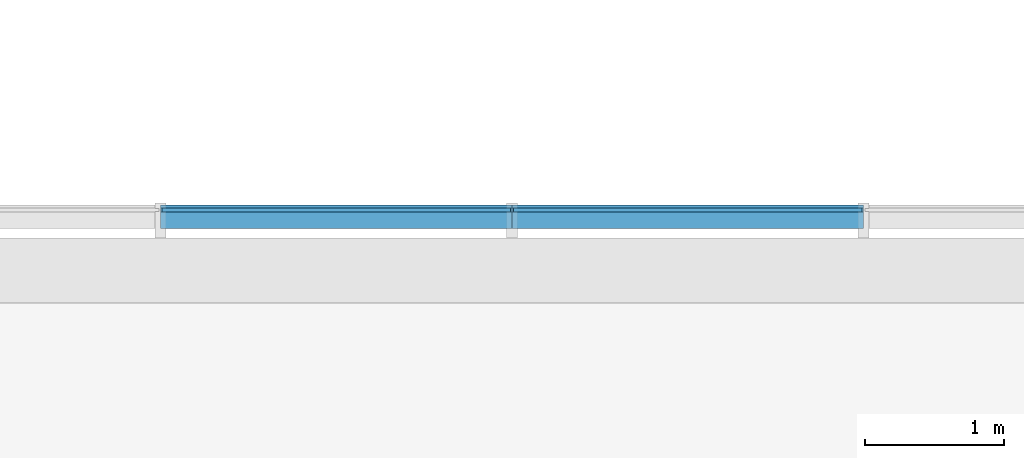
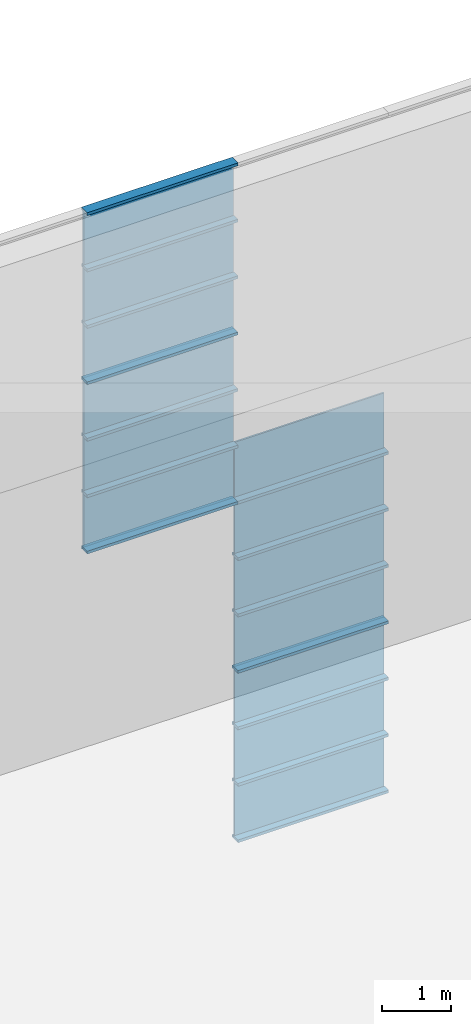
# One storey, part 43 of 105: 30 building element parts, 4 elements without a shape of their own.
"""IFC4 building model written with IfcOpenShell, lengths in millimetres."""

from ifc_helpers import new_model, entity, si_unit, converted_unit, derived_unit, direction, frame, origin_with_axes, place, context, subcontext, project, spatial, triangles, material, element, aggregate, save


model = new_model("IFC4")

# Units and contexts
model_context = context("Model", 3, precision=1e-05, world=origin_with_axes(), true_north=direction((0.0, 1.0)))
body_context = subcontext(model_context, "Body", "Model", "MODEL_VIEW")
ifc_project = project(units=[si_unit("LENGTHUNIT", "METRE", prefix="MILLI"), si_unit("AREAUNIT", "SQUARE_METRE"), si_unit("VOLUMEUNIT", "CUBIC_METRE"), converted_unit("PLANEANGLEUNIT", "DEGREE", entity("IfcLengthMeasure", 0.017453), si_unit("PLANEANGLEUNIT", "RADIAN"), dimensions=[0, 0, 0, 0, 0, 0, 0]), si_unit("SOLIDANGLEUNIT", "STERADIAN"), si_unit("MASSUNIT", "GRAM"), si_unit("TIMEUNIT", "SECOND"), si_unit("THERMODYNAMICTEMPERATUREUNIT", "DEGREE_CELSIUS"), si_unit("LUMINOUSINTENSITYUNIT", "LUMEN"), si_unit("POWERUNIT", "WATT"), derived_unit("THERMALTRANSMITTANCEUNIT", [(si_unit("POWERUNIT", "WATT"), 1), (si_unit("THERMODYNAMICTEMPERATUREUNIT", "KELVIN"), -1), (si_unit("AREAUNIT", "SQUARE_METRE"), -1)])], contexts=[model_context])

# Site, building, storey
site_placement = place(None, origin_with_axes())
site = spatial("IfcSite", under=ifc_project, at=site_placement, Name="Default Site", CompositionType="ELEMENT")
building_placement = place(site_placement, origin_with_axes())
building = spatial("IfcBuilding", under=site, at=building_placement, Name="Default Building", CompositionType="ELEMENT")
storey_placement = place(building_placement, origin_with_axes())
storey = spatial("IfcBuildingStorey", under=building, at=storey_placement, Name="OG - Story", CompositionType="ELEMENT", Elevation=0.0)

# Curtain wall, building element parts
curtain_wall_1_placement = place(storey_placement, origin_with_axes())
curtain_wall_1 = element("IfcCurtainWall", 1, at=curtain_wall_1_placement, inside=storey, Name="Fassade-004", PredefinedType="NOTDEFINED")
ifc_material_1 = material(Name="Normalglas")
building_element_part_1_placement = place(curtain_wall_1_placement, frame((33014.549222, -4389.262838, 0.0), z_axis=(0.0, 0.0, 1.0), x_axis=(1.0, 0.0, 0.0)))
building_element_part_1 = element("IfcBuildingElementPart", 2, at=building_element_part_1_placement, material=ifc_material_1, Name="Normalglas", PredefinedType="NOTDEFINED", context=body_context, shape_type="Tessellation", body=[
    triangles([(11358.421, -14.999, 995.0), (11358.421, 15.0, 995.0), (8852.105, 15.0, 995.0), (8852.105, -14.999, 995.0), (11358.421, -14.999, 5.0), (11358.421, 15.0, 5.0), (8852.105, 15.0, 5.0), (8852.105, -14.999, 5.0)], [[1, 2, 3], [1, 3, 4], [5, 6, 2], [5, 2, 1], [2, 6, 7], [2, 7, 3], [4, 3, 7], [4, 7, 8], [1, 4, 8], [1, 8, 5], [8, 7, 6], [8, 6, 5]], closed=False),
])
building_element_part_2_placement = place(curtain_wall_1_placement, frame((33014.549222, -4389.262838, 0.0), z_axis=(0.0, 0.0, 1.0), x_axis=(1.0, 0.0, 0.0)))
building_element_part_2 = element("IfcBuildingElementPart", 3, at=building_element_part_2_placement, material=ifc_material_1, Name="Normalglas", PredefinedType="NOTDEFINED", context=body_context, shape_type="Tessellation", body=[
    triangles([(11358.421, -14.999, 1995.0), (11358.421, 15.0, 1995.0), (8852.105, 15.0, 1995.0), (8852.105, -14.999, 1995.0), (11358.421, -14.999, 1005.0), (11358.421, 15.0, 1005.0), (8852.105, 15.0, 1005.0), (8852.105, -14.999, 1005.0)], [[1, 2, 3], [1, 3, 4], [5, 6, 2], [5, 2, 1], [2, 6, 7], [2, 7, 3], [4, 3, 7], [4, 7, 8], [1, 4, 8], [1, 8, 5], [8, 7, 6], [8, 6, 5]], closed=False),
])
building_element_part_3_placement = place(curtain_wall_1_placement, frame((33014.549222, -4389.262838, 0.0), z_axis=(0.0, 0.0, 1.0), x_axis=(1.0, 0.0, 0.0)))
building_element_part_3 = element("IfcBuildingElementPart", 4, at=building_element_part_3_placement, material=ifc_material_1, Name="Normalglas", PredefinedType="NOTDEFINED", context=body_context, shape_type="Tessellation", body=[
    triangles([(11358.421, -14.999, 2995.0), (11358.421, 15.0, 2995.0), (8852.105, 15.0, 2995.0), (8852.105, -14.999, 2995.0), (11358.421, -14.999, 2005.0), (11358.421, 15.0, 2005.0), (8852.105, 15.0, 2005.0), (8852.105, -14.999, 2005.0)], [[1, 2, 3], [1, 3, 4], [5, 6, 2], [5, 2, 1], [2, 6, 7], [2, 7, 3], [4, 3, 7], [4, 7, 8], [1, 4, 8], [1, 8, 5], [8, 7, 6], [8, 6, 5]], closed=False),
])
ifc_material_2 = material(Name="Blech")
building_element_part_4_placement = place(curtain_wall_1_placement, frame((33014.549222, -4389.262838, 0.0), z_axis=(0.0, 0.0, 1.0), x_axis=(1.0, 0.0, 0.0)))
building_element_part_4 = element("IfcBuildingElementPart", 5, at=building_element_part_4_placement, material=ifc_material_2, Name="Blech", PredefinedType="NOTDEFINED", context=body_context, shape_type="Tessellation", body=[
    triangles([(11368.421, 35.0, -24.999), (11368.421, 35.0, 25.0), (11368.421, 15.0, 25.0), (11368.421, 15.0, 5.0), (11368.421, -14.999, 5.0), (11368.421, -132.999, 25.0), (11368.421, -132.999, -24.999), (11368.421, -14.999, 25.0), (8842.105, -14.999, 5.0), (8842.105, -14.999, 25.0), (8842.105, -132.999, 25.0), (8842.105, -132.999, -24.999), (8842.105, 35.0, -24.999), (8842.105, 35.0, 25.0), (8842.105, 15.0, 25.0), (8842.105, 15.0, 5.0)], [[1, 2, 3], [1, 3, 4], [1, 4, 5], [1, 5, 6], [1, 6, 7], [8, 6, 5], [5, 9, 10], [5, 10, 8], [10, 11, 6], [10, 6, 8], [11, 12, 7], [11, 7, 6], [12, 13, 1], [12, 1, 7], [13, 14, 2], [13, 2, 1], [3, 2, 14], [3, 14, 15], [15, 16, 4], [15, 4, 3], [4, 16, 9], [4, 9, 5], [15, 16, 13], [13, 16, 9], [13, 9, 11], [11, 9, 10], [13, 11, 12], [15, 13, 14]], closed=False),
])
building_element_part_5_placement = place(curtain_wall_1_placement, frame((33014.549222, -4389.262838, 0.0), z_axis=(0.0, 0.0, 1.0), x_axis=(1.0, 0.0, 0.0)))
building_element_part_5 = element("IfcBuildingElementPart", 6, at=building_element_part_5_placement, material=ifc_material_2, Name="Blech", PredefinedType="NOTDEFINED", context=body_context, shape_type="Tessellation", body=[
    triangles([(11368.421, 35.0, 975.0), (11368.421, 15.0, 975.0), (11368.421, 35.0, 1025.0), (11368.421, 15.0, 995.0), (11368.421, 15.0, 1005.0), (11368.421, -14.999, 995.0), (11368.421, -14.999, 1005.0), (11368.421, -14.999, 1025.0), (11368.421, -14.999, 975.0), (11368.421, -132.999, 975.0), (11368.421, -132.999, 1025.0), (11368.421, 15.0, 1025.0), (8842.105, -14.999, 995.0), (8842.105, 15.0, 995.0), (8842.105, 15.0, 975.0), (8842.105, 35.0, 975.0), (8842.105, 35.0, 1025.0), (8842.105, 15.0, 1025.0), (8842.105, 15.0, 1005.0), (8842.105, -14.999, 1005.0), (8842.105, -14.999, 1025.0), (8842.105, -132.999, 1025.0), (8842.105, -132.999, 975.0), (8842.105, -14.999, 975.0)], [[1, 2, 3], [3, 2, 4], [3, 4, 5], [5, 4, 6], [5, 6, 7], [8, 9, 10], [8, 10, 11], [3, 5, 12], [6, 13, 14], [6, 14, 4], [4, 14, 15], [4, 15, 2], [15, 16, 1], [15, 1, 2], [1, 16, 17], [1, 17, 3], [18, 12, 3], [18, 3, 17], [12, 18, 19], [12, 19, 5], [7, 5, 19], [7, 19, 20], [8, 7, 20], [8, 20, 21], [8, 21, 22], [8, 22, 11], [11, 22, 23], [11, 23, 10], [9, 10, 23], [9, 23, 24], [9, 24, 13], [9, 13, 6], [17, 18, 16], [16, 18, 19], [16, 19, 14], [14, 19, 20], [14, 20, 13], [24, 21, 22], [24, 22, 23], [16, 14, 15]], closed=False),
])
building_element_part_6_placement = place(curtain_wall_1_placement, frame((33014.549222, -4389.262838, 0.0), z_axis=(0.0, 0.0, 1.0), x_axis=(1.0, 0.0, 0.0)))
building_element_part_6 = element("IfcBuildingElementPart", 7, at=building_element_part_6_placement, material=ifc_material_2, Name="Blech", PredefinedType="NOTDEFINED", context=body_context, shape_type="Tessellation", body=[
    triangles([(11368.421, 35.0, 1975.0), (11368.421, 15.0, 1975.0), (11368.421, 35.0, 2025.0), (11368.421, 15.0, 1995.0), (11368.421, 15.0, 2005.0), (11368.421, -14.999, 1995.0), (11368.421, -14.999, 2005.0), (11368.421, -14.999, 2025.0), (11368.421, -14.999, 1975.0), (11368.421, -132.999, 1975.0), (11368.421, -132.999, 2025.0), (11368.421, 15.0, 2025.0), (8842.105, -14.999, 1995.0), (8842.105, 15.0, 1995.0), (8842.105, 15.0, 1975.0), (8842.105, 35.0, 1975.0), (8842.105, 35.0, 2025.0), (8842.105, 15.0, 2025.0), (8842.105, 15.0, 2005.0), (8842.105, -14.999, 2005.0), (8842.105, -14.999, 2025.0), (8842.105, -132.999, 2025.0), (8842.105, -132.999, 1975.0), (8842.105, -14.999, 1975.0)], [[1, 2, 3], [3, 2, 4], [3, 4, 5], [5, 4, 6], [5, 6, 7], [8, 9, 10], [8, 10, 11], [3, 5, 12], [6, 13, 14], [6, 14, 4], [4, 14, 15], [4, 15, 2], [15, 16, 1], [15, 1, 2], [1, 16, 17], [1, 17, 3], [18, 12, 3], [18, 3, 17], [12, 18, 19], [12, 19, 5], [7, 5, 19], [7, 19, 20], [8, 7, 20], [8, 20, 21], [8, 21, 22], [8, 22, 11], [11, 22, 23], [11, 23, 10], [9, 10, 23], [9, 23, 24], [9, 24, 13], [9, 13, 6], [17, 18, 16], [16, 18, 19], [16, 19, 14], [14, 19, 20], [14, 20, 13], [24, 21, 22], [24, 22, 23], [16, 14, 15]], closed=False),
])
building_element_part_7_placement = place(curtain_wall_1_placement, frame((33014.549222, -4389.262838, 0.0), z_axis=(0.0, 0.0, 1.0), x_axis=(1.0, 0.0, 0.0)))
building_element_part_7 = element("IfcBuildingElementPart", 8, at=building_element_part_7_placement, material=ifc_material_2, Name="Blech", PredefinedType="NOTDEFINED", context=body_context, shape_type="Tessellation", body=[
    triangles([(11368.421, 15.0, 2975.0), (11368.421, 15.0, 2995.0), (11368.421, 35.0, 3025.0), (11368.421, -14.999, 2995.0), (11368.421, -132.999, 2975.0), (11368.421, -14.999, 2975.0), (11368.421, -132.999, 3025.0), (11368.421, 35.0, 2975.0), (8842.105, -14.999, 2995.0), (8842.105, 15.0, 2995.0), (8842.105, 15.0, 2975.0), (8842.105, 35.0, 2975.0), (8842.105, 35.0, 3025.0), (8842.105, -132.999, 3025.0), (8842.105, -132.999, 2975.0), (8842.105, -14.999, 2975.0)], [[1, 2, 3], [3, 2, 4], [3, 4, 5], [5, 4, 6], [3, 5, 7], [1, 3, 8], [2, 4, 9], [2, 9, 10], [11, 1, 2], [11, 2, 10], [1, 11, 12], [1, 12, 8], [13, 3, 8], [13, 8, 12], [14, 7, 3], [14, 3, 13], [15, 5, 7], [15, 7, 14], [16, 6, 5], [16, 5, 15], [4, 6, 16], [4, 16, 9], [13, 12, 11], [13, 11, 10], [13, 10, 9], [13, 9, 15], [13, 15, 14], [16, 15, 9]], closed=False),
])
aggregate(curtain_wall_1, [building_element_part_1, building_element_part_2, building_element_part_3, building_element_part_4, building_element_part_5, building_element_part_6, building_element_part_7])

curtain_wall_2_placement = place(storey_placement, origin_with_axes())
curtain_wall_2 = element("IfcCurtainWall", 9, at=curtain_wall_2_placement, inside=storey, Name="Fassade-004", PredefinedType="NOTDEFINED")
building_element_part_8_placement = place(curtain_wall_2_placement, frame((33014.549222, -4389.262838, 3000.0), z_axis=(0.0, 0.0, 1.0), x_axis=(1.0, 0.0, 0.0)))
building_element_part_8 = element("IfcBuildingElementPart", 10, at=building_element_part_8_placement, material=ifc_material_1, Name="Normalglas", PredefinedType="NOTDEFINED", context=body_context, shape_type="Tessellation", body=[
    triangles([(11358.421, -14.999, 995.0), (11358.421, 15.0, 995.0), (8852.105, 15.0, 995.0), (8852.105, -14.999, 995.0), (11358.421, -14.999, 5.0), (11358.421, 15.0, 5.0), (8852.105, 15.0, 5.0), (8852.105, -14.999, 5.0)], [[1, 2, 3], [1, 3, 4], [5, 6, 2], [5, 2, 1], [2, 6, 7], [2, 7, 3], [4, 3, 7], [4, 7, 8], [1, 4, 8], [1, 8, 5], [8, 7, 6], [8, 6, 5]], closed=False),
])
building_element_part_9_placement = place(curtain_wall_2_placement, frame((33014.549222, -4389.262838, 3000.0), z_axis=(0.0, 0.0, 1.0), x_axis=(1.0, 0.0, 0.0)))
building_element_part_9 = element("IfcBuildingElementPart", 11, at=building_element_part_9_placement, material=ifc_material_1, Name="Normalglas", PredefinedType="NOTDEFINED", context=body_context, shape_type="Tessellation", body=[
    triangles([(11358.421, -14.999, 1995.0), (11358.421, 15.0, 1995.0), (8852.105, 15.0, 1995.0), (8852.105, -14.999, 1995.0), (11358.421, -14.999, 1005.0), (11358.421, 15.0, 1005.0), (8852.105, 15.0, 1005.0), (8852.105, -14.999, 1005.0)], [[1, 2, 3], [1, 3, 4], [5, 6, 2], [5, 2, 1], [2, 6, 7], [2, 7, 3], [4, 3, 7], [4, 7, 8], [1, 4, 8], [1, 8, 5], [8, 7, 6], [8, 6, 5]], closed=False),
])
building_element_part_10_placement = place(curtain_wall_2_placement, frame((33014.549222, -4389.262838, 3000.0), z_axis=(0.0, 0.0, 1.0), x_axis=(1.0, 0.0, 0.0)))
building_element_part_10 = element("IfcBuildingElementPart", 12, at=building_element_part_10_placement, material=ifc_material_1, Name="Normalglas", PredefinedType="NOTDEFINED", context=body_context, shape_type="Tessellation", body=[
    triangles([(11358.421, -14.999, 2995.0), (11358.421, 15.0, 2995.0), (8852.105, 15.0, 2995.0), (8852.105, -14.999, 2995.0), (11358.421, -14.999, 2005.0), (11358.421, 15.0, 2005.0), (8852.105, 15.0, 2005.0), (8852.105, -14.999, 2005.0)], [[1, 2, 3], [1, 3, 4], [5, 6, 2], [5, 2, 1], [2, 6, 7], [2, 7, 3], [4, 3, 7], [4, 7, 8], [1, 4, 8], [1, 8, 5], [8, 7, 6], [8, 6, 5]], closed=False),
])
building_element_part_11_placement = place(curtain_wall_2_placement, frame((33014.549222, -4389.262838, 3000.0), z_axis=(0.0, 0.0, 1.0), x_axis=(1.0, 0.0, 0.0)))
building_element_part_11 = element("IfcBuildingElementPart", 13, at=building_element_part_11_placement, material=ifc_material_2, Name="Blech", PredefinedType="NOTDEFINED", context=body_context, shape_type="Tessellation", body=[
    triangles([(11368.421, 35.0, -24.999), (11368.421, 35.0, 25.0), (11368.421, 15.0, 25.0), (11368.421, 15.0, 5.0), (11368.421, -14.999, 5.0), (11368.421, -132.999, 25.0), (11368.421, -132.999, -24.999), (11368.421, -14.999, 25.0), (8842.105, -14.999, 5.0), (8842.105, -14.999, 25.0), (8842.105, -132.999, 25.0), (8842.105, -132.999, -24.999), (8842.105, 35.0, -24.999), (8842.105, 35.0, 25.0), (8842.105, 15.0, 25.0), (8842.105, 15.0, 5.0)], [[1, 2, 3], [1, 3, 4], [1, 4, 5], [1, 5, 6], [1, 6, 7], [8, 6, 5], [5, 9, 10], [5, 10, 8], [10, 11, 6], [10, 6, 8], [11, 12, 7], [11, 7, 6], [12, 13, 1], [12, 1, 7], [13, 14, 2], [13, 2, 1], [3, 2, 14], [3, 14, 15], [15, 16, 4], [15, 4, 3], [4, 16, 9], [4, 9, 5], [15, 16, 13], [13, 16, 9], [13, 9, 11], [11, 9, 10], [13, 11, 12], [15, 13, 14]], closed=False),
])
building_element_part_12_placement = place(curtain_wall_2_placement, frame((33014.549222, -4389.262838, 3000.0), z_axis=(0.0, 0.0, 1.0), x_axis=(1.0, 0.0, 0.0)))
building_element_part_12 = element("IfcBuildingElementPart", 14, at=building_element_part_12_placement, material=ifc_material_2, Name="Blech", PredefinedType="NOTDEFINED", context=body_context, shape_type="Tessellation", body=[
    triangles([(11368.421, 35.0, 975.0), (11368.421, 15.0, 975.0), (11368.421, 35.0, 1025.0), (11368.421, 15.0, 995.0), (11368.421, 15.0, 1005.0), (11368.421, -14.999, 995.0), (11368.421, -14.999, 1005.0), (11368.421, -14.999, 1025.0), (11368.421, -14.999, 975.0), (11368.421, -132.999, 975.0), (11368.421, -132.999, 1025.0), (11368.421, 15.0, 1025.0), (8842.105, -14.999, 995.0), (8842.105, 15.0, 995.0), (8842.105, 15.0, 975.0), (8842.105, 35.0, 975.0), (8842.105, 35.0, 1025.0), (8842.105, 15.0, 1025.0), (8842.105, 15.0, 1005.0), (8842.105, -14.999, 1005.0), (8842.105, -14.999, 1025.0), (8842.105, -132.999, 1025.0), (8842.105, -132.999, 975.0), (8842.105, -14.999, 975.0)], [[1, 2, 3], [3, 2, 4], [3, 4, 5], [5, 4, 6], [5, 6, 7], [8, 9, 10], [8, 10, 11], [3, 5, 12], [6, 13, 14], [6, 14, 4], [4, 14, 15], [4, 15, 2], [15, 16, 1], [15, 1, 2], [1, 16, 17], [1, 17, 3], [18, 12, 3], [18, 3, 17], [12, 18, 19], [12, 19, 5], [7, 5, 19], [7, 19, 20], [8, 7, 20], [8, 20, 21], [8, 21, 22], [8, 22, 11], [11, 22, 23], [11, 23, 10], [9, 10, 23], [9, 23, 24], [9, 24, 13], [9, 13, 6], [17, 18, 16], [16, 18, 19], [16, 19, 14], [14, 19, 20], [14, 20, 13], [24, 21, 22], [24, 22, 23], [16, 14, 15]], closed=False),
])
building_element_part_13_placement = place(curtain_wall_2_placement, frame((33014.549222, -4389.262838, 3000.0), z_axis=(0.0, 0.0, 1.0), x_axis=(1.0, 0.0, 0.0)))
building_element_part_13 = element("IfcBuildingElementPart", 15, at=building_element_part_13_placement, material=ifc_material_2, Name="Blech", PredefinedType="NOTDEFINED", context=body_context, shape_type="Tessellation", body=[
    triangles([(8842.105, 15.0, 2975.0), (8842.105, 15.0, 2995.0), (8842.105, 35.0, 3025.0), (8842.105, -14.999, 2995.0), (8842.105, -132.999, 2975.0), (8842.105, -14.999, 2975.0), (8842.105, -132.999, 3025.0), (8842.105, 35.0, 2975.0), (6315.789, -14.999, 2995.0), (6315.789, 15.0, 2995.0), (6315.789, 15.0, 2975.0), (6315.789, 35.0, 2975.0), (6315.789, 35.0, 3025.0), (6315.789, -132.999, 3025.0), (6315.789, -132.999, 2975.0), (6315.789, -14.999, 2975.0)], [[1, 2, 3], [3, 2, 4], [3, 4, 5], [5, 4, 6], [3, 5, 7], [1, 3, 8], [2, 4, 9], [2, 9, 10], [11, 1, 2], [11, 2, 10], [1, 11, 12], [1, 12, 8], [13, 3, 8], [13, 8, 12], [14, 7, 3], [14, 3, 13], [15, 5, 7], [15, 7, 14], [16, 6, 5], [16, 5, 15], [4, 6, 16], [4, 16, 9], [13, 12, 11], [13, 11, 10], [13, 10, 9], [13, 9, 15], [13, 15, 14], [16, 15, 9]], closed=False),
])
building_element_part_14_placement = place(curtain_wall_2_placement, frame((33014.549222, -4389.262838, 3000.0), z_axis=(0.0, 0.0, 1.0), x_axis=(1.0, 0.0, 0.0)))
building_element_part_14 = element("IfcBuildingElementPart", 16, at=building_element_part_14_placement, material=ifc_material_2, Name="Blech", PredefinedType="NOTDEFINED", context=body_context, shape_type="Tessellation", body=[
    triangles([(11368.421, 35.0, 1975.0), (11368.421, 15.0, 1975.0), (11368.421, 35.0, 2025.0), (11368.421, 15.0, 1995.0), (11368.421, 15.0, 2005.0), (11368.421, -14.999, 1995.0), (11368.421, -14.999, 2005.0), (11368.421, -14.999, 2025.0), (11368.421, -14.999, 1975.0), (11368.421, -132.999, 1975.0), (11368.421, -132.999, 2025.0), (11368.421, 15.0, 2025.0), (8842.105, -14.999, 1995.0), (8842.105, 15.0, 1995.0), (8842.105, 15.0, 1975.0), (8842.105, 35.0, 1975.0), (8842.105, 35.0, 2025.0), (8842.105, 15.0, 2025.0), (8842.105, 15.0, 2005.0), (8842.105, -14.999, 2005.0), (8842.105, -14.999, 2025.0), (8842.105, -132.999, 2025.0), (8842.105, -132.999, 1975.0), (8842.105, -14.999, 1975.0)], [[1, 2, 3], [3, 2, 4], [3, 4, 5], [5, 4, 6], [5, 6, 7], [8, 9, 10], [8, 10, 11], [3, 5, 12], [6, 13, 14], [6, 14, 4], [4, 14, 15], [4, 15, 2], [15, 16, 1], [15, 1, 2], [1, 16, 17], [1, 17, 3], [18, 12, 3], [18, 3, 17], [12, 18, 19], [12, 19, 5], [7, 5, 19], [7, 19, 20], [8, 7, 20], [8, 20, 21], [8, 21, 22], [8, 22, 11], [11, 22, 23], [11, 23, 10], [9, 10, 23], [9, 23, 24], [9, 24, 13], [9, 13, 6], [17, 18, 16], [16, 18, 19], [16, 19, 14], [14, 19, 20], [14, 20, 13], [24, 21, 22], [24, 22, 23], [16, 14, 15]], closed=False),
])
building_element_part_15_placement = place(curtain_wall_2_placement, frame((33014.549222, -4389.262838, 3000.0), z_axis=(0.0, 0.0, 1.0), x_axis=(1.0, 0.0, 0.0)))
building_element_part_15 = element("IfcBuildingElementPart", 17, at=building_element_part_15_placement, material=ifc_material_2, Name="Blech", PredefinedType="NOTDEFINED", context=body_context, shape_type="Tessellation", body=[
    triangles([(11368.421, 15.0, 2975.0), (11368.421, 15.0, 2995.0), (11368.421, 35.0, 3025.0), (11368.421, -14.999, 2995.0), (11368.421, -132.999, 2975.0), (11368.421, -14.999, 2975.0), (11368.421, -132.999, 3025.0), (11368.421, 35.0, 2975.0), (8842.105, -14.999, 2995.0), (8842.105, 15.0, 2995.0), (8842.105, 15.0, 2975.0), (8842.105, 35.0, 2975.0), (8842.105, 35.0, 3025.0), (8842.105, -132.999, 3025.0), (8842.105, -132.999, 2975.0), (8842.105, -14.999, 2975.0)], [[1, 2, 3], [3, 2, 4], [3, 4, 5], [5, 4, 6], [3, 5, 7], [1, 3, 8], [2, 4, 9], [2, 9, 10], [11, 1, 2], [11, 2, 10], [1, 11, 12], [1, 12, 8], [13, 3, 8], [13, 8, 12], [14, 7, 3], [14, 3, 13], [15, 5, 7], [15, 7, 14], [16, 6, 5], [16, 5, 15], [4, 6, 16], [4, 16, 9], [13, 12, 11], [13, 11, 10], [13, 10, 9], [13, 9, 15], [13, 15, 14], [16, 15, 9]], closed=False),
])
aggregate(curtain_wall_2, [building_element_part_8, building_element_part_9, building_element_part_10, building_element_part_11, building_element_part_12, building_element_part_13, building_element_part_14, building_element_part_15])

curtain_wall_3_placement = place(storey_placement, origin_with_axes())
curtain_wall_3 = element("IfcCurtainWall", 18, at=curtain_wall_3_placement, inside=storey, Name="Fassade-004", PredefinedType="NOTDEFINED")
building_element_part_16_placement = place(curtain_wall_3_placement, frame((33014.549222, -4389.262838, 6000.0), z_axis=(0.0, 0.0, 1.0), x_axis=(1.0, 0.0, 0.0)))
building_element_part_16 = element("IfcBuildingElementPart", 19, at=building_element_part_16_placement, material=ifc_material_1, Name="Normalglas", PredefinedType="NOTDEFINED", context=body_context, shape_type="Tessellation", body=[
    triangles([(8832.105, -14.999, 995.0), (8832.105, 15.0, 995.0), (6325.789, 15.0, 995.0), (6325.789, -14.999, 995.0), (8832.105, -14.999, 5.0), (8832.105, 15.0, 5.0), (6325.789, 15.0, 5.0), (6325.789, -14.999, 5.0)], [[1, 2, 3], [1, 3, 4], [5, 6, 2], [5, 2, 1], [2, 6, 7], [2, 7, 3], [4, 3, 7], [4, 7, 8], [1, 4, 8], [1, 8, 5], [8, 7, 6], [8, 6, 5]], closed=False),
])
building_element_part_17_placement = place(curtain_wall_3_placement, frame((33014.549222, -4389.262838, 6000.0), z_axis=(0.0, 0.0, 1.0), x_axis=(1.0, 0.0, 0.0)))
building_element_part_17 = element("IfcBuildingElementPart", 20, at=building_element_part_17_placement, material=ifc_material_1, Name="Normalglas", PredefinedType="NOTDEFINED", context=body_context, shape_type="Tessellation", body=[
    triangles([(11358.421, -14.999, 995.0), (11358.421, 15.0, 995.0), (8852.105, 15.0, 995.0), (8852.105, -14.999, 995.0), (11358.421, -14.999, 5.0), (11358.421, 15.0, 5.0), (8852.105, 15.0, 5.0), (8852.105, -14.999, 5.0)], [[1, 2, 3], [1, 3, 4], [5, 6, 2], [5, 2, 1], [2, 6, 7], [2, 7, 3], [4, 3, 7], [4, 7, 8], [1, 4, 8], [1, 8, 5], [8, 7, 6], [8, 6, 5]], closed=False),
])
building_element_part_18_placement = place(curtain_wall_3_placement, frame((33014.549222, -4389.262838, 6000.0), z_axis=(0.0, 0.0, 1.0), x_axis=(1.0, 0.0, 0.0)))
building_element_part_18 = element("IfcBuildingElementPart", 21, at=building_element_part_18_placement, material=ifc_material_1, Name="Normalglas", PredefinedType="NOTDEFINED", context=body_context, shape_type="Tessellation", body=[
    triangles([(8832.105, -14.999, 1995.0), (8832.105, 15.0, 1995.0), (6325.789, 15.0, 1995.0), (6325.789, -14.999, 1995.0), (8832.105, -14.999, 1005.0), (8832.105, 15.0, 1005.0), (6325.789, 15.0, 1005.0), (6325.789, -14.999, 1005.0)], [[1, 2, 3], [1, 3, 4], [5, 6, 2], [5, 2, 1], [2, 6, 7], [2, 7, 3], [4, 3, 7], [4, 7, 8], [1, 4, 8], [1, 8, 5], [8, 7, 6], [8, 6, 5]], closed=False),
])
building_element_part_19_placement = place(curtain_wall_3_placement, frame((33014.549222, -4389.262838, 6000.0), z_axis=(0.0, 0.0, 1.0), x_axis=(1.0, 0.0, 0.0)))
building_element_part_19 = element("IfcBuildingElementPart", 22, at=building_element_part_19_placement, material=ifc_material_1, Name="Normalglas", PredefinedType="NOTDEFINED", context=body_context, shape_type="Tessellation", body=[
    triangles([(8832.105, -14.999, 2995.0), (8832.105, 15.0, 2995.0), (6325.789, 15.0, 2995.0), (6325.789, -14.999, 2995.0), (8832.105, -14.999, 2005.0), (8832.105, 15.0, 2005.0), (6325.789, 15.0, 2005.0), (6325.789, -14.999, 2005.0)], [[1, 2, 3], [1, 3, 4], [5, 6, 2], [5, 2, 1], [2, 6, 7], [2, 7, 3], [4, 3, 7], [4, 7, 8], [1, 4, 8], [1, 8, 5], [8, 7, 6], [8, 6, 5]], closed=False),
])
building_element_part_20_placement = place(curtain_wall_3_placement, frame((33014.549222, -4389.262838, 6000.0), z_axis=(0.0, 0.0, 1.0), x_axis=(1.0, 0.0, 0.0)))
building_element_part_20 = element("IfcBuildingElementPart", 23, at=building_element_part_20_placement, material=ifc_material_2, Name="Blech", PredefinedType="NOTDEFINED", context=body_context, shape_type="Tessellation", body=[
    triangles([(8842.105, 35.0, -24.999), (8842.105, 35.0, 25.0), (8842.105, 15.0, 25.0), (8842.105, 15.0, 5.0), (8842.105, -14.999, 5.0), (8842.105, -132.999, 25.0), (8842.105, -132.999, -24.999), (8842.105, -14.999, 25.0), (6315.789, -14.999, 5.0), (6315.789, -14.999, 25.0), (6315.789, -132.999, 25.0), (6315.789, -132.999, -24.999), (6315.789, 35.0, -24.999), (6315.789, 35.0, 25.0), (6315.789, 15.0, 25.0), (6315.789, 15.0, 5.0)], [[1, 2, 3], [1, 3, 4], [1, 4, 5], [1, 5, 6], [1, 6, 7], [8, 6, 5], [5, 9, 10], [5, 10, 8], [10, 11, 6], [10, 6, 8], [11, 12, 7], [11, 7, 6], [12, 13, 1], [12, 1, 7], [13, 14, 2], [13, 2, 1], [3, 2, 14], [3, 14, 15], [15, 16, 4], [15, 4, 3], [4, 16, 9], [4, 9, 5], [15, 16, 13], [13, 16, 9], [13, 9, 11], [11, 9, 10], [13, 11, 12], [15, 13, 14]], closed=False),
])
building_element_part_21_placement = place(curtain_wall_3_placement, frame((33014.549222, -4389.262838, 6000.0), z_axis=(0.0, 0.0, 1.0), x_axis=(1.0, 0.0, 0.0)))
building_element_part_21 = element("IfcBuildingElementPart", 24, at=building_element_part_21_placement, material=ifc_material_2, Name="Blech", PredefinedType="NOTDEFINED", context=body_context, shape_type="Tessellation", body=[
    triangles([(8842.105, 35.0, 975.0), (8842.105, 15.0, 975.0), (8842.105, 35.0, 1025.0), (8842.105, 15.0, 995.0), (8842.105, 15.0, 1005.0), (8842.105, -14.999, 995.0), (8842.105, -14.999, 1005.0), (8842.105, -14.999, 1025.0), (8842.105, -14.999, 975.0), (8842.105, -132.999, 975.0), (8842.105, -132.999, 1025.0), (8842.105, 15.0, 1025.0), (6315.789, -14.999, 995.0), (6315.789, 15.0, 995.0), (6315.789, 15.0, 975.0), (6315.789, 35.0, 975.0), (6315.789, 35.0, 1025.0), (6315.789, 15.0, 1025.0), (6315.789, 15.0, 1005.0), (6315.789, -14.999, 1005.0), (6315.789, -14.999, 1025.0), (6315.789, -132.999, 1025.0), (6315.789, -132.999, 975.0), (6315.789, -14.999, 975.0)], [[1, 2, 3], [3, 2, 4], [3, 4, 5], [5, 4, 6], [5, 6, 7], [8, 9, 10], [8, 10, 11], [3, 5, 12], [6, 13, 14], [6, 14, 4], [4, 14, 15], [4, 15, 2], [15, 16, 1], [15, 1, 2], [1, 16, 17], [1, 17, 3], [18, 12, 3], [18, 3, 17], [12, 18, 19], [12, 19, 5], [7, 5, 19], [7, 19, 20], [8, 7, 20], [8, 20, 21], [8, 21, 22], [8, 22, 11], [11, 22, 23], [11, 23, 10], [9, 10, 23], [9, 23, 24], [9, 24, 13], [9, 13, 6], [17, 18, 16], [16, 18, 19], [16, 19, 14], [14, 19, 20], [14, 20, 13], [24, 21, 22], [24, 22, 23], [16, 14, 15]], closed=False),
])
building_element_part_22_placement = place(curtain_wall_3_placement, frame((33014.549222, -4389.262838, 6000.0), z_axis=(0.0, 0.0, 1.0), x_axis=(1.0, 0.0, 0.0)))
building_element_part_22 = element("IfcBuildingElementPart", 25, at=building_element_part_22_placement, material=ifc_material_2, Name="Blech", PredefinedType="NOTDEFINED", context=body_context, shape_type="Tessellation", body=[
    triangles([(8842.105, 35.0, 1975.0), (8842.105, 15.0, 1975.0), (8842.105, 35.0, 2025.0), (8842.105, 15.0, 1995.0), (8842.105, 15.0, 2005.0), (8842.105, -14.999, 1995.0), (8842.105, -14.999, 2005.0), (8842.105, -14.999, 2025.0), (8842.105, -14.999, 1975.0), (8842.105, -132.999, 1975.0), (8842.105, -132.999, 2025.0), (8842.105, 15.0, 2025.0), (6315.789, -14.999, 1995.0), (6315.789, 15.0, 1995.0), (6315.789, 15.0, 1975.0), (6315.789, 35.0, 1975.0), (6315.789, 35.0, 2025.0), (6315.789, 15.0, 2025.0), (6315.789, 15.0, 2005.0), (6315.789, -14.999, 2005.0), (6315.789, -14.999, 2025.0), (6315.789, -132.999, 2025.0), (6315.789, -132.999, 1975.0), (6315.789, -14.999, 1975.0)], [[1, 2, 3], [3, 2, 4], [3, 4, 5], [5, 4, 6], [5, 6, 7], [8, 9, 10], [8, 10, 11], [3, 5, 12], [6, 13, 14], [6, 14, 4], [4, 14, 15], [4, 15, 2], [15, 16, 1], [15, 1, 2], [1, 16, 17], [1, 17, 3], [18, 12, 3], [18, 3, 17], [12, 18, 19], [12, 19, 5], [7, 5, 19], [7, 19, 20], [8, 7, 20], [8, 20, 21], [8, 21, 22], [8, 22, 11], [11, 22, 23], [11, 23, 10], [9, 10, 23], [9, 23, 24], [9, 24, 13], [9, 13, 6], [17, 18, 16], [16, 18, 19], [16, 19, 14], [14, 19, 20], [14, 20, 13], [24, 21, 22], [24, 22, 23], [16, 14, 15]], closed=False),
])
building_element_part_23_placement = place(curtain_wall_3_placement, frame((33014.549222, -4389.262838, 6000.0), z_axis=(0.0, 0.0, 1.0), x_axis=(1.0, 0.0, 0.0)))
building_element_part_23 = element("IfcBuildingElementPart", 26, at=building_element_part_23_placement, material=ifc_material_2, Name="Blech", PredefinedType="NOTDEFINED", context=body_context, shape_type="Tessellation", body=[
    triangles([(8842.105, 15.0, 2975.0), (8842.105, 15.0, 2995.0), (8842.105, 35.0, 3025.0), (8842.105, -14.999, 2995.0), (8842.105, -132.999, 2975.0), (8842.105, -14.999, 2975.0), (8842.105, -132.999, 3025.0), (8842.105, 35.0, 2975.0), (6315.789, -14.999, 2995.0), (6315.789, 15.0, 2995.0), (6315.789, 15.0, 2975.0), (6315.789, 35.0, 2975.0), (6315.789, 35.0, 3025.0), (6315.789, -132.999, 3025.0), (6315.789, -132.999, 2975.0), (6315.789, -14.999, 2975.0)], [[1, 2, 3], [3, 2, 4], [3, 4, 5], [5, 4, 6], [3, 5, 7], [1, 3, 8], [2, 4, 9], [2, 9, 10], [11, 1, 2], [11, 2, 10], [1, 11, 12], [1, 12, 8], [13, 3, 8], [13, 8, 12], [14, 7, 3], [14, 3, 13], [15, 5, 7], [15, 7, 14], [16, 6, 5], [16, 5, 15], [4, 6, 16], [4, 16, 9], [13, 12, 11], [13, 11, 10], [13, 10, 9], [13, 9, 15], [13, 15, 14], [16, 15, 9]], closed=False),
])
aggregate(curtain_wall_3, [building_element_part_16, building_element_part_17, building_element_part_18, building_element_part_19, building_element_part_20, building_element_part_21, building_element_part_22, building_element_part_23])

curtain_wall_4_placement = place(storey_placement, origin_with_axes())
curtain_wall_4 = element("IfcCurtainWall", 27, at=curtain_wall_4_placement, inside=storey, Name="Fassade-004", PredefinedType="NOTDEFINED")
building_element_part_24_placement = place(curtain_wall_4_placement, frame((33014.549222, -4389.262838, 9000.0), z_axis=(0.0, 0.0, 1.0), x_axis=(1.0, 0.0, 0.0)))
building_element_part_24 = element("IfcBuildingElementPart", 28, at=building_element_part_24_placement, material=ifc_material_1, Name="Normalglas", PredefinedType="NOTDEFINED", context=body_context, shape_type="Tessellation", body=[
    triangles([(8832.105, -14.999, 995.0), (8832.105, 15.0, 995.0), (6325.789, 15.0, 995.0), (6325.789, -14.999, 995.0), (8832.105, -14.999, 5.0), (8832.105, 15.0, 5.0), (6325.789, 15.0, 5.0), (6325.789, -14.999, 5.0)], [[1, 2, 3], [1, 3, 4], [5, 6, 2], [5, 2, 1], [2, 6, 7], [2, 7, 3], [4, 3, 7], [4, 7, 8], [1, 4, 8], [1, 8, 5], [8, 7, 6], [8, 6, 5]], closed=False),
])
building_element_part_25_placement = place(curtain_wall_4_placement, frame((33014.549222, -4389.262838, 9000.0), z_axis=(0.0, 0.0, 1.0), x_axis=(1.0, 0.0, 0.0)))
building_element_part_25 = element("IfcBuildingElementPart", 29, at=building_element_part_25_placement, material=ifc_material_1, Name="Normalglas", PredefinedType="NOTDEFINED", context=body_context, shape_type="Tessellation", body=[
    triangles([(8832.105, -14.999, 1995.0), (8832.105, 15.0, 1995.0), (6325.789, 15.0, 1995.0), (6325.789, -14.999, 1995.0), (8832.105, -14.999, 1005.0), (8832.105, 15.0, 1005.0), (6325.789, 15.0, 1005.0), (6325.789, -14.999, 1005.0)], [[1, 2, 3], [1, 3, 4], [5, 6, 2], [5, 2, 1], [2, 6, 7], [2, 7, 3], [4, 3, 7], [4, 7, 8], [1, 4, 8], [1, 8, 5], [8, 7, 6], [8, 6, 5]], closed=False),
])
building_element_part_26_placement = place(curtain_wall_4_placement, frame((33014.549222, -4389.262838, 9000.0), z_axis=(0.0, 0.0, 1.0), x_axis=(1.0, 0.0, 0.0)))
building_element_part_26 = element("IfcBuildingElementPart", 30, at=building_element_part_26_placement, material=ifc_material_1, Name="Normalglas", PredefinedType="NOTDEFINED", context=body_context, shape_type="Tessellation", body=[
    triangles([(8832.105, -14.999, 2995.0), (8832.105, 15.0, 2995.0), (6325.789, 15.0, 2995.0), (6325.789, -14.999, 2995.0), (8832.105, -14.999, 2005.0), (8832.105, 15.0, 2005.0), (6325.789, 15.0, 2005.0), (6325.789, -14.999, 2005.0)], [[1, 2, 3], [1, 3, 4], [5, 6, 2], [5, 2, 1], [2, 6, 7], [2, 7, 3], [4, 3, 7], [4, 7, 8], [1, 4, 8], [1, 8, 5], [8, 7, 6], [8, 6, 5]], closed=False),
])
building_element_part_27_placement = place(curtain_wall_4_placement, frame((33014.549222, -4389.262838, 9000.0), z_axis=(0.0, 0.0, 1.0), x_axis=(1.0, 0.0, 0.0)))
building_element_part_27 = element("IfcBuildingElementPart", 31, at=building_element_part_27_placement, material=ifc_material_2, Name="Blech", PredefinedType="NOTDEFINED", context=body_context, shape_type="Tessellation", body=[
    triangles([(8842.105, 35.0, -24.999), (8842.105, 35.0, 25.0), (8842.105, 15.0, 25.0), (8842.105, 15.0, 5.0), (8842.105, -14.999, 5.0), (8842.105, -132.999, 25.0), (8842.105, -132.999, -24.999), (8842.105, -14.999, 25.0), (6315.789, -14.999, 5.0), (6315.789, -14.999, 25.0), (6315.789, -132.999, 25.0), (6315.789, -132.999, -24.999), (6315.789, 35.0, -24.999), (6315.789, 35.0, 25.0), (6315.789, 15.0, 25.0), (6315.789, 15.0, 5.0)], [[1, 2, 3], [1, 3, 4], [1, 4, 5], [1, 5, 6], [1, 6, 7], [8, 6, 5], [5, 9, 10], [5, 10, 8], [10, 11, 6], [10, 6, 8], [11, 12, 7], [11, 7, 6], [12, 13, 1], [12, 1, 7], [13, 14, 2], [13, 2, 1], [3, 2, 14], [3, 14, 15], [15, 16, 4], [15, 4, 3], [4, 16, 9], [4, 9, 5], [15, 16, 13], [13, 16, 9], [13, 9, 11], [11, 9, 10], [13, 11, 12], [15, 13, 14]], closed=False),
])
building_element_part_28_placement = place(curtain_wall_4_placement, frame((33014.549222, -4389.262838, 9000.0), z_axis=(0.0, 0.0, 1.0), x_axis=(1.0, 0.0, 0.0)))
building_element_part_28 = element("IfcBuildingElementPart", 32, at=building_element_part_28_placement, material=ifc_material_2, Name="Blech", PredefinedType="NOTDEFINED", context=body_context, shape_type="Tessellation", body=[
    triangles([(8842.105, 35.0, 975.0), (8842.105, 15.0, 975.0), (8842.105, 35.0, 1025.0), (8842.105, 15.0, 995.0), (8842.105, 15.0, 1005.0), (8842.105, -14.999, 995.0), (8842.105, -14.999, 1005.0), (8842.105, -14.999, 1025.0), (8842.105, -14.999, 975.0), (8842.105, -132.999, 975.0), (8842.105, -132.999, 1025.0), (8842.105, 15.0, 1025.0), (6315.789, -14.999, 995.0), (6315.789, 15.0, 995.0), (6315.789, 15.0, 975.0), (6315.789, 35.0, 975.0), (6315.789, 35.0, 1025.0), (6315.789, 15.0, 1025.0), (6315.789, 15.0, 1005.0), (6315.789, -14.999, 1005.0), (6315.789, -14.999, 1025.0), (6315.789, -132.999, 1025.0), (6315.789, -132.999, 975.0), (6315.789, -14.999, 975.0)], [[1, 2, 3], [3, 2, 4], [3, 4, 5], [5, 4, 6], [5, 6, 7], [8, 9, 10], [8, 10, 11], [3, 5, 12], [6, 13, 14], [6, 14, 4], [4, 14, 15], [4, 15, 2], [15, 16, 1], [15, 1, 2], [1, 16, 17], [1, 17, 3], [18, 12, 3], [18, 3, 17], [12, 18, 19], [12, 19, 5], [7, 5, 19], [7, 19, 20], [8, 7, 20], [8, 20, 21], [8, 21, 22], [8, 22, 11], [11, 22, 23], [11, 23, 10], [9, 10, 23], [9, 23, 24], [9, 24, 13], [9, 13, 6], [17, 18, 16], [16, 18, 19], [16, 19, 14], [14, 19, 20], [14, 20, 13], [24, 21, 22], [24, 22, 23], [16, 14, 15]], closed=False),
])
building_element_part_29_placement = place(curtain_wall_4_placement, frame((33014.549222, -4389.262838, 9000.0), z_axis=(0.0, 0.0, 1.0), x_axis=(1.0, 0.0, 0.0)))
building_element_part_29 = element("IfcBuildingElementPart", 33, at=building_element_part_29_placement, material=ifc_material_2, Name="Blech", PredefinedType="NOTDEFINED", context=body_context, shape_type="Tessellation", body=[
    triangles([(8842.105, 35.0, 1975.0), (8842.105, 15.0, 1975.0), (8842.105, 35.0, 2025.0), (8842.105, 15.0, 1995.0), (8842.105, 15.0, 2005.0), (8842.105, -14.999, 1995.0), (8842.105, -14.999, 2005.0), (8842.105, -14.999, 2025.0), (8842.105, -14.999, 1975.0), (8842.105, -132.999, 1975.0), (8842.105, -132.999, 2025.0), (8842.105, 15.0, 2025.0), (6315.789, -14.999, 1995.0), (6315.789, 15.0, 1995.0), (6315.789, 15.0, 1975.0), (6315.789, 35.0, 1975.0), (6315.789, 35.0, 2025.0), (6315.789, 15.0, 2025.0), (6315.789, 15.0, 2005.0), (6315.789, -14.999, 2005.0), (6315.789, -14.999, 2025.0), (6315.789, -132.999, 2025.0), (6315.789, -132.999, 1975.0), (6315.789, -14.999, 1975.0)], [[1, 2, 3], [3, 2, 4], [3, 4, 5], [5, 4, 6], [5, 6, 7], [8, 9, 10], [8, 10, 11], [3, 5, 12], [6, 13, 14], [6, 14, 4], [4, 14, 15], [4, 15, 2], [15, 16, 1], [15, 1, 2], [1, 16, 17], [1, 17, 3], [18, 12, 3], [18, 3, 17], [12, 18, 19], [12, 19, 5], [7, 5, 19], [7, 19, 20], [8, 7, 20], [8, 20, 21], [8, 21, 22], [8, 22, 11], [11, 22, 23], [11, 23, 10], [9, 10, 23], [9, 23, 24], [9, 24, 13], [9, 13, 6], [17, 18, 16], [16, 18, 19], [16, 19, 14], [14, 19, 20], [14, 20, 13], [24, 21, 22], [24, 22, 23], [16, 14, 15]], closed=False),
])
building_element_part_30_placement = place(curtain_wall_4_placement, frame((33014.549222, -4389.262838, 9000.0), z_axis=(0.0, 0.0, 1.0), x_axis=(1.0, 0.0, 0.0)))
building_element_part_30 = element("IfcBuildingElementPart", 34, at=building_element_part_30_placement, material=ifc_material_2, Name="Blech", PredefinedType="NOTDEFINED", context=body_context, shape_type="Tessellation", body=[
    triangles([(8842.105, 15.0, 2975.0), (8842.105, 15.0, 2995.0), (8842.105, 35.0, 3025.0), (8842.105, -14.999, 2995.0), (8842.105, -132.999, 2975.0), (8842.105, -14.999, 2975.0), (8842.105, -132.999, 3025.0), (8842.105, 35.0, 2975.0), (6315.789, -14.999, 2995.0), (6315.789, 15.0, 2995.0), (6315.789, 15.0, 2975.0), (6315.789, 35.0, 2975.0), (6315.789, 35.0, 3025.0), (6315.789, -132.999, 3025.0), (6315.789, -132.999, 2975.0), (6315.789, -14.999, 2975.0)], [[1, 2, 3], [3, 2, 4], [3, 4, 5], [5, 4, 6], [3, 5, 7], [1, 3, 8], [2, 4, 9], [2, 9, 10], [11, 1, 2], [11, 2, 10], [1, 11, 12], [1, 12, 8], [13, 3, 8], [13, 8, 12], [14, 7, 3], [14, 3, 13], [15, 5, 7], [15, 7, 14], [16, 6, 5], [16, 5, 15], [4, 6, 16], [4, 16, 9], [13, 12, 11], [13, 11, 10], [13, 10, 9], [13, 9, 15], [13, 15, 14], [16, 15, 9]], closed=False),
])
aggregate(curtain_wall_4, [building_element_part_24, building_element_part_25, building_element_part_26, building_element_part_27, building_element_part_28, building_element_part_29, building_element_part_30])

save(model, "model.ifc")
